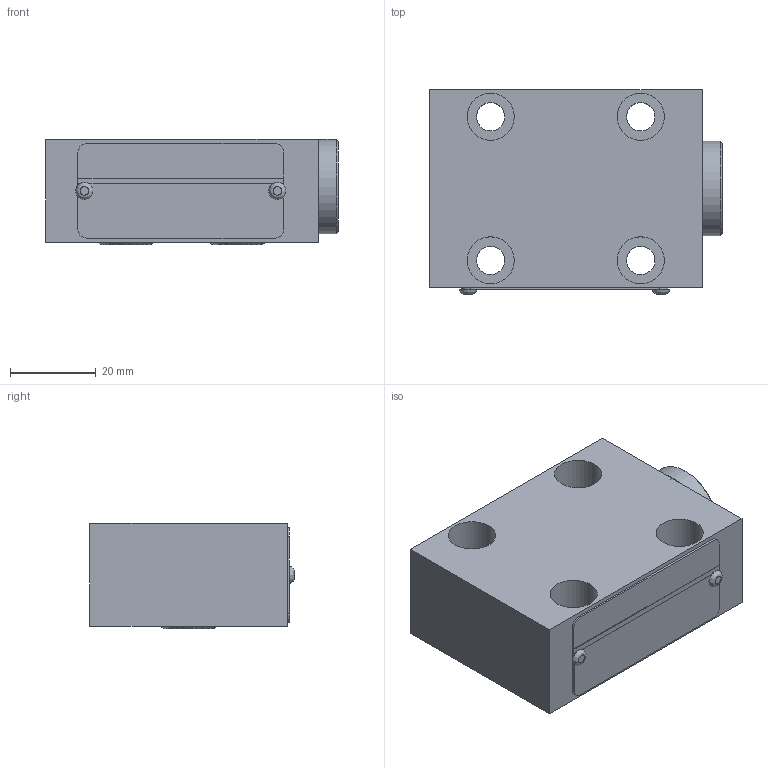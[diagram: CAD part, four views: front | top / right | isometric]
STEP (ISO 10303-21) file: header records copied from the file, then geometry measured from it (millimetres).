
FILE_DESCRIPTION(/* description */ (''),/* implementation_level */ '2;1');
FILE_NAME(/* name */ 'RVP8单向阀.prt.stp',/* time_stamp */ '2022-03-30T19:11:30+08:00',/* author */ (''),/* organization */ (''),/* preprocessor_version */ 'ST-DEVELOPER v16.7',/* originating_system */ 'SIEMENS PLM Software NX 12.0',/* authorisation */ '');
FILE_SCHEMA (('AUTOMOTIVE_DESIGN { 1 0 10303 214 3 1 1 1 }'));
Length unit declared in the file: millimetre
Products named in the file (1): RVP8单向阀
Bounding box: 68.2 x 47.6 x 24.5 mm (x, y, z)
Volume: 69253.3 mm3; surface area: 20922.3 mm2
Topology: 11 solids, 13 shells, 152 faces, 341 edges, 223 vertices
Faces by surface type: plane 68, cylinder 48, cone 22, bspline 11, torus 3
Full cylindrical faces by diameter (mm): 1.5 x2, 1.8 x6, 4 x1, 4.2 x1, 6.6 x6, 8 x2, 9.1 x1, 11 x4, 13.7 x2, 14.5 x7, 16.1 x1, 17 x1, 19 x2, 21.6 x1, 22 x1
Entity records: 7051 total; most frequent: CARTESIAN_POINT 4083, DIRECTION 578, ORIENTED_EDGE 482, EDGE_CURVE 241, AXIS2_PLACEMENT_3D 239, EDGE_LOOP 228, VERTEX_POINT 194, FACE_BOUND 173
